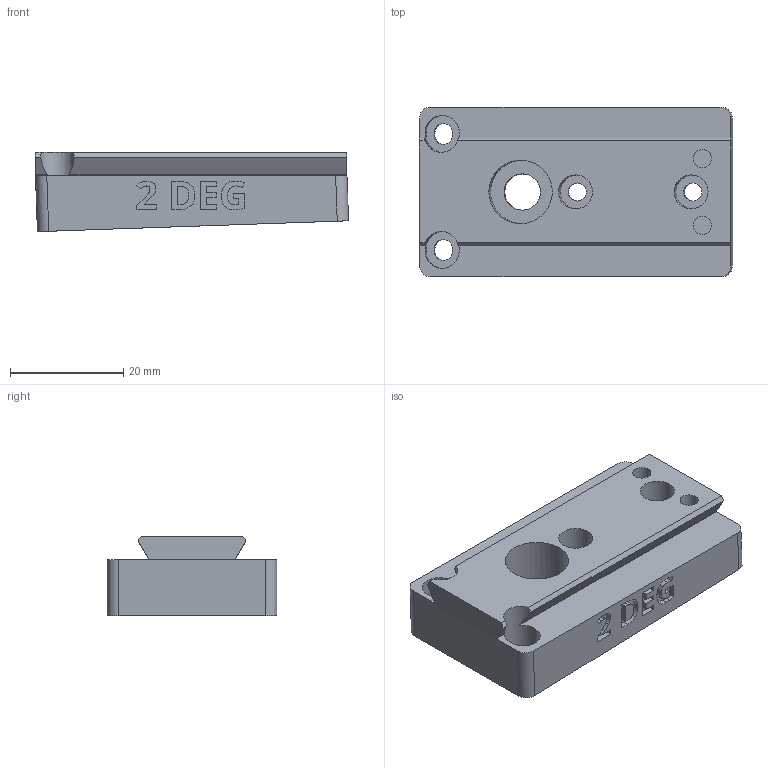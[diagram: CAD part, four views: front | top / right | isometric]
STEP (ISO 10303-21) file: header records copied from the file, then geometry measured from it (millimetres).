
FILE_DESCRIPTION(/* description */ ('STEP AP242 Edition 2','CAx-IF Rec.Pracs.---Representation and Presentation of Product Manufacturing Information (PMI)---4.0---2014-10-13','CAx-IF Rec.Pracs.---3D Tessellated Geometry---0.4---2014-09-14','2;1','CAx-IF Rec.Pracs.---User Defined Attributes---1.5---2016-08-15'),/* implementation_level */ '2;1');
FILE_NAME(/* name */ 'Camera Wedges - CAMERA MOUNTING WEDGE, POS, 2 DEG',/* time_stamp */ '2026-07-08T20:38:22Z',/* author */ (''),/* organization */ (''),/* preprocessor_version */ 'ST-DEVELOPER v20',/* originating_system */ 'ONSHAPE BY PTC INC, 1.217',/* authorisation */ ' ');
FILE_SCHEMA (('AP242_MANAGED_MODEL_BASED_3D_ENGINEERING_MIM_LF { 1 0 10303 442 3 1 4 }'));
Length unit declared in the file: metre
Products named in the file (1): CAMERA MOUNTING WEDGE, POS, 2 DEG
Bounding box: 55.31 x 30 x 14.01 mm (x, y, z)
Volume: 15650.2 mm3; surface area: 6956.9 mm2
Topology: 1 solids, 1 shells, 221 faces, 610 edges, 407 vertices
Faces by surface type: plane 125, cylinder 52, bspline 44
Full cylindrical faces by diameter (mm): 3.2 x4, 6 x2, 6.4 x1, 11.2 x1
Entity records: 7159 total; most frequent: CARTESIAN_POINT 1709, ORIENTED_EDGE 1198, DIRECTION 983, EDGE_CURVE 599, VERTEX_POINT 404, LINE 395, VECTOR 395, AXIS2_PLACEMENT_3D 294
